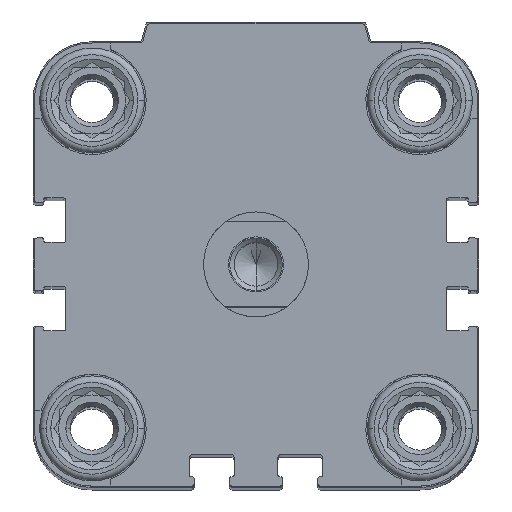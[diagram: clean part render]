
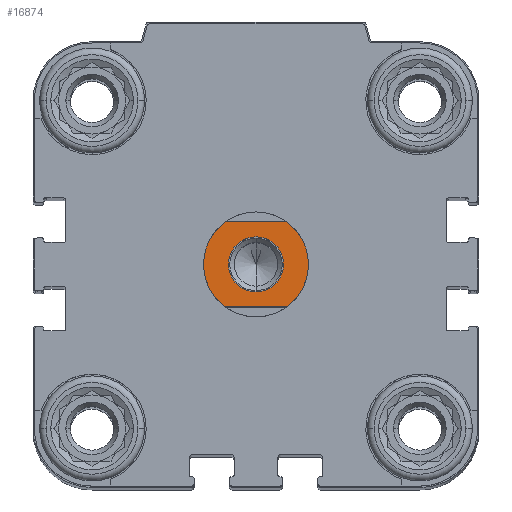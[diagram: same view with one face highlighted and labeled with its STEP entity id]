
A CAD part, top view. The second image highlights one B-rep face of the part: STEP entity #16874.
In plain terms, the highlighted planar face has unit normal (0, 0, 1).
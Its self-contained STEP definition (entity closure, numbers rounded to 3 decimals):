
#341 = AXIS2_PLACEMENT_3D ( 'NONE', #9823, #1455, #20436 ) ;
#537 = CARTESIAN_POINT ( 'NONE',  ( -13., 6.5, 7.5 ) ) ;
#592 = FACE_OUTER_BOUND ( 'NONE', #21995, .T. ) ;
#749 = EDGE_CURVE ( 'NONE', #12690, #19616, #17873, .T. ) ;
#944 = VERTEX_POINT ( 'NONE', #22548 ) ;
#1058 = DIRECTION ( 'NONE',  ( 0., 1., 0. ) ) ;
#1230 = ORIENTED_EDGE ( 'NONE', *, *, #12943, .F. ) ;
#1446 = EDGE_LOOP ( 'NONE', ( #15303, #16226 ) ) ;
#1455 = DIRECTION ( 'NONE',  ( 0., 0., -1. ) ) ;
#1738 = EDGE_CURVE ( 'NONE', #12602, #6507, #16486, .T. ) ;
#2799 = ORIENTED_EDGE ( 'NONE', *, *, #21748, .F. ) ;
#4132 = DIRECTION ( 'NONE',  ( 0., 1., 0. ) ) ;
#4969 = VECTOR ( 'NONE', #6526, 1000. ) ;
#5371 = EDGE_CURVE ( 'NONE', #944, #12976, #20070, .T. ) ;
#5455 = CARTESIAN_POINT ( 'NONE',  ( -4.664, 6.5, 7.5 ) ) ;
#5745 = FACE_BOUND ( 'NONE', #1446, .T. ) ;
#5758 = LINE ( 'NONE', #16822, #4969 ) ;
#5809 = EDGE_CURVE ( 'NONE', #6507, #9355, #18997, .T. ) ;
#6194 = AXIS2_PLACEMENT_3D ( 'NONE', #14770, #13057, #4132 ) ;
#6507 = VERTEX_POINT ( 'NONE', #18209 ) ;
#6526 = DIRECTION ( 'NONE',  ( -1., 0., 0. ) ) ;
#6699 = CIRCLE ( 'NONE', #14714, 8. ) ;
#7012 = DIRECTION ( 'NONE',  ( 0., 0., -1. ) ) ;
#7118 = ORIENTED_EDGE ( 'NONE', *, *, #5809, .F. ) ;
#7298 = CARTESIAN_POINT ( 'NONE',  ( 0., 0., 7.5 ) ) ;
#7562 = CARTESIAN_POINT ( 'NONE',  ( -4.664, -6.5, 7.5 ) ) ;
#8268 = CIRCLE ( 'NONE', #21033, 4.2 ) ;
#8763 = DIRECTION ( 'NONE',  ( -1., 0., 0. ) ) ;
#8816 = AXIS2_PLACEMENT_3D ( 'NONE', #20865, #10491, #8763 ) ;
#9355 = VERTEX_POINT ( 'NONE', #15088 ) ;
#9363 = EDGE_CURVE ( 'NONE', #9355, #12572, #5758, .T. ) ;
#9435 = CARTESIAN_POINT ( 'NONE',  ( 0., -4.2, 7.5 ) ) ;
#9526 = VECTOR ( 'NONE', #12888, 1000. ) ;
#9823 = CARTESIAN_POINT ( 'NONE',  ( 0., 0., 7.5 ) ) ;
#10048 = ORIENTED_EDGE ( 'NONE', *, *, #9363, .F. ) ;
#10491 = DIRECTION ( 'NONE',  ( 0., 0., -1. ) ) ;
#10589 = DIRECTION ( 'NONE',  ( 0., 0., -1. ) ) ;
#11655 = CARTESIAN_POINT ( 'NONE',  ( 0., 4.2, 7.5 ) ) ;
#11943 = CARTESIAN_POINT ( 'NONE',  ( 0., 0., 7.5 ) ) ;
#12572 = VERTEX_POINT ( 'NONE', #7562 ) ;
#12602 = VERTEX_POINT ( 'NONE', #14636 ) ;
#12690 = VERTEX_POINT ( 'NONE', #11655 ) ;
#12790 = ORIENTED_EDGE ( 'NONE', *, *, #5371, .F. ) ;
#12888 = DIRECTION ( 'NONE',  ( 1., 0., 0. ) ) ;
#12943 = EDGE_CURVE ( 'NONE', #12572, #944, #6699, .T. ) ;
#12976 = VERTEX_POINT ( 'NONE', #5455 ) ;
#13057 = DIRECTION ( 'NONE',  ( 0., 0., -1. ) ) ;
#14594 = LINE ( 'NONE', #537, #9526 ) ;
#14636 = CARTESIAN_POINT ( 'NONE',  ( 4.664, 6.5, 7.5 ) ) ;
#14714 = AXIS2_PLACEMENT_3D ( 'NONE', #7298, #17715, #16097 ) ;
#14770 = CARTESIAN_POINT ( 'NONE',  ( 0., 0., 7.5 ) ) ;
#15088 = CARTESIAN_POINT ( 'NONE',  ( 4.664, -6.5, 7.5 ) ) ;
#15303 = ORIENTED_EDGE ( 'NONE', *, *, #749, .T. ) ;
#15692 = CARTESIAN_POINT ( 'NONE',  ( 0., 0., 7.5 ) ) ;
#16097 = DIRECTION ( 'NONE',  ( -1., 0., 0. ) ) ;
#16226 = ORIENTED_EDGE ( 'NONE', *, *, #21008, .T. ) ;
#16486 = CIRCLE ( 'NONE', #8816, 8. ) ;
#16822 = CARTESIAN_POINT ( 'NONE',  ( 13., -6.5, 7.5 ) ) ;
#16865 = DIRECTION ( 'NONE',  ( 0., 0., -1. ) ) ;
#16874 = ADVANCED_FACE ( 'NONE', ( #592, #5745 ), #20021, .F. ) ;
#17559 = DIRECTION ( 'NONE',  ( -1., 0., 0. ) ) ;
#17715 = DIRECTION ( 'NONE',  ( 0., 0., -1. ) ) ;
#17770 = DIRECTION ( 'NONE',  ( 0., 1., 0. ) ) ;
#17873 = CIRCLE ( 'NONE', #22220, 4.2 ) ;
#18209 = CARTESIAN_POINT ( 'NONE',  ( 8., 0., 7.5 ) ) ;
#18934 = CARTESIAN_POINT ( 'NONE',  ( 0., 0., 7.5 ) ) ;
#18997 = CIRCLE ( 'NONE', #21921, 8. ) ;
#19616 = VERTEX_POINT ( 'NONE', #9435 ) ;
#19985 = ORIENTED_EDGE ( 'NONE', *, *, #1738, .F. ) ;
#20021 = PLANE ( 'NONE',  #6194 ) ;
#20070 = CIRCLE ( 'NONE', #341, 8. ) ;
#20436 = DIRECTION ( 'NONE',  ( -1., 0., 0. ) ) ;
#20865 = CARTESIAN_POINT ( 'NONE',  ( 0., 0., 7.5 ) ) ;
#21008 = EDGE_CURVE ( 'NONE', #19616, #12690, #8268, .T. ) ;
#21033 = AXIS2_PLACEMENT_3D ( 'NONE', #15692, #7012, #17770 ) ;
#21748 = EDGE_CURVE ( 'NONE', #12976, #12602, #14594, .T. ) ;
#21921 = AXIS2_PLACEMENT_3D ( 'NONE', #18934, #10589, #17559 ) ;
#21995 = EDGE_LOOP ( 'NONE', ( #2799, #12790, #1230, #10048, #7118, #19985 ) ) ;
#22220 = AXIS2_PLACEMENT_3D ( 'NONE', #11943, #16865, #1058 ) ;
#22548 = CARTESIAN_POINT ( 'NONE',  ( -8., 0., 7.5 ) ) ;
